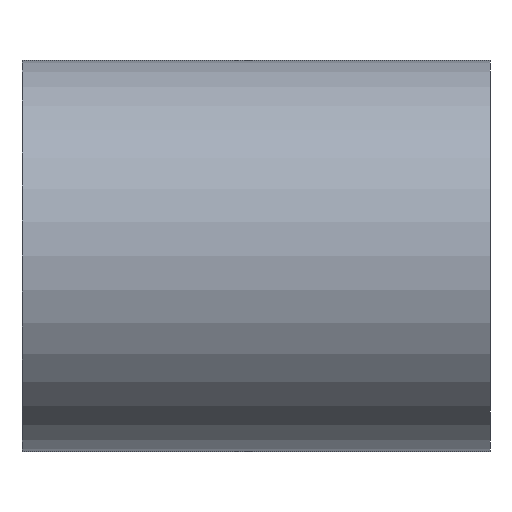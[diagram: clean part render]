
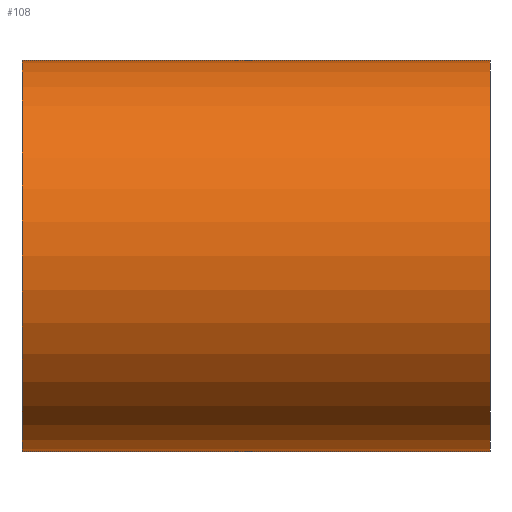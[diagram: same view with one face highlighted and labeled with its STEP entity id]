
A CAD part, front view. The second image highlights one B-rep face of the part: STEP entity #108.
In plain terms, the highlighted cylindrical face has radius 395 mm (diameter 790 mm), a partial arc.
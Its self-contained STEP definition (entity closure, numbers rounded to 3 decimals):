
#108=ADVANCED_FACE('',(#212),#213,.T.);
#212=FACE_OUTER_BOUND('',#335,.T.);
#213=CYLINDRICAL_SURFACE('',#336,395.0);
#335=EDGE_LOOP('',(#587,#588,#589,#590));
#336=AXIS2_PLACEMENT_3D('',#591,#592,#593);
#587=ORIENTED_EDGE('',*,*,#659,.T.);
#588=ORIENTED_EDGE('',*,*,#768,.F.);
#589=ORIENTED_EDGE('',*,*,#661,.T.);
#590=ORIENTED_EDGE('',*,*,#769,.F.);
#591=CARTESIAN_POINT('',(0.0,0.0,0.0));
#592=DIRECTION('',(1.0,0.0,0.0));
#593=DIRECTION('',(0.0,0.0,-1.0));
#659=EDGE_CURVE('',#773,#774,#775,.T.);
#661=EDGE_CURVE('',#778,#776,#779,.T.);
#768=EDGE_CURVE('',#778,#774,#938,.T.);
#769=EDGE_CURVE('',#773,#776,#939,.T.);
#773=VERTEX_POINT('',#943);
#774=VERTEX_POINT('',#944);
#775=LINE('',#945,#946);
#776=VERTEX_POINT('',#947);
#778=VERTEX_POINT('',#949);
#779=LINE('',#950,#951);
#938=CIRCLE('',#1136,395.0);
#939=CIRCLE('',#1137,395.0);
#943=CARTESIAN_POINT('',(-472.5,0.0,-395.0));
#944=CARTESIAN_POINT('',(472.5,0.0,-395.0));
#945=CARTESIAN_POINT('',(0.0,0.,-395.0));
#946=VECTOR('',#1140,1.0);
#947=CARTESIAN_POINT('',(-472.5,0.,395.0));
#949=CARTESIAN_POINT('',(472.5,0.,395.0));
#950=CARTESIAN_POINT('',(0.0,0.,395.0));
#951=VECTOR('',#1144,1.0);
#1136=AXIS2_PLACEMENT_3D('',#1330,#1331,#1332);
#1137=AXIS2_PLACEMENT_3D('',#1333,#1334,#1335);
#1140=DIRECTION('',(1.0,0.0,0.0));
#1144=DIRECTION('',(-1.0,-0.0,-0.0));
#1330=CARTESIAN_POINT('',(472.5,0.0,0.0));
#1331=DIRECTION('',(1.0,0.0,0.0));
#1332=DIRECTION('',(0.0,0.0,-1.0));
#1333=CARTESIAN_POINT('',(-472.5,0.0,0.0));
#1334=DIRECTION('',(-1.0,0.0,0.0));
#1335=DIRECTION('',(0.0,0.0,-1.0));
